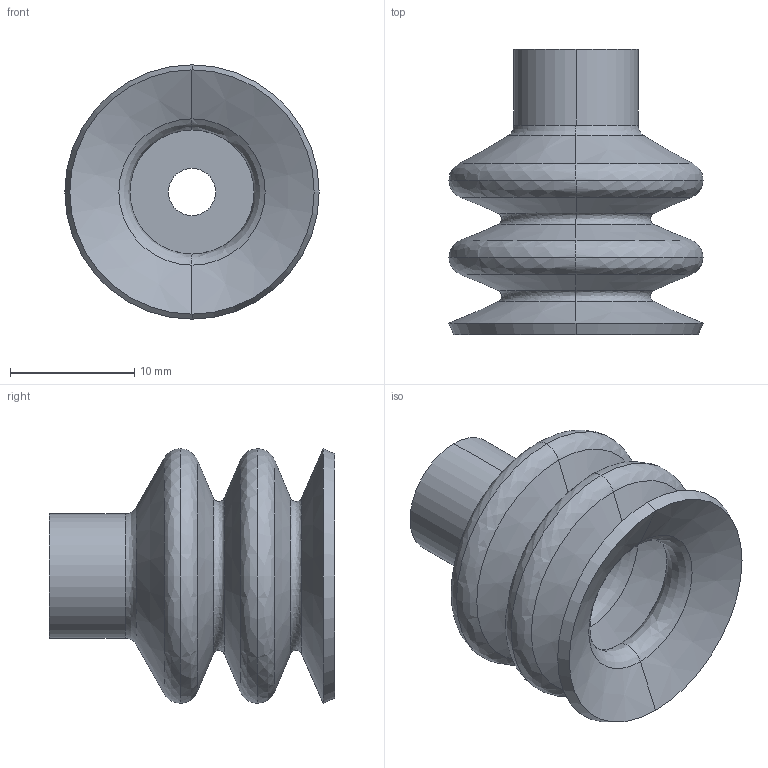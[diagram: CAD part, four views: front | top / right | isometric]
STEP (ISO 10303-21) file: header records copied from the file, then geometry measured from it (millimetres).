
FILE_DESCRIPTION (( 'STEP AP214' ), '1' );
FILE_NAME ('FG-20.STEP', '2023-03-07T06:41:58', ( 'Windows User' ), ( 'P R C' ), 'SwSTEP 2.0', 'SolidWorks 2019', '' );
FILE_SCHEMA (( 'AUTOMOTIVE_DESIGN' ));
Length unit declared in the file: millimetre
Products named in the file (1): FG-20
Bounding box: 20.5 x 23 x 20.5 mm (x, y, z)
Volume: 2047.5 mm3; surface area: 3195 mm2
Topology: 1 solids, 1 shells, 54 faces, 108 edges, 56 vertices
Faces by surface type: bspline 26, cone 22, cylinder 4, plane 2
Entity records: 1688 total; most frequent: CARTESIAN_POINT 687, ORIENTED_EDGE 216, DIRECTION 196, EDGE_CURVE 108, AXIS2_PLACEMENT_3D 85, EDGE_LOOP 56, VERTEX_POINT 56, CIRCLE 56
